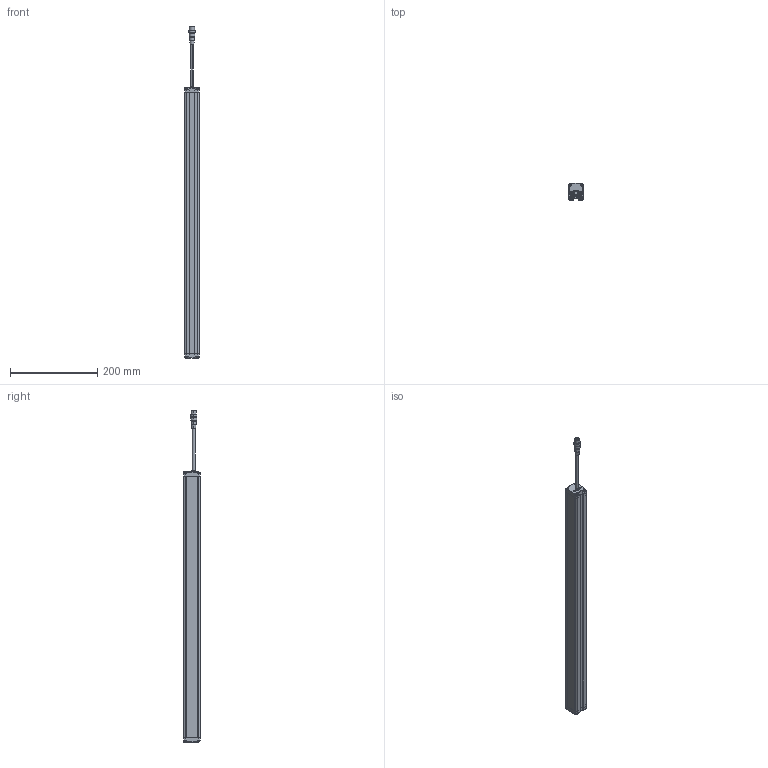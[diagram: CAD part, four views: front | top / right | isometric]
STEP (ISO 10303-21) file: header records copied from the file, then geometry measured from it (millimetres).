
FILE_DESCRIPTION((''),'2;1');
FILE_NAME('PRT0015','2026-03-31T10:39:47',('Administrator'),(''),'CREO PARAMETRIC BY PTC INC, 2016510','CREO PARAMETRIC BY PTC INC, 2016510','');
FILE_SCHEMA(('AUTOMOTIVE_DESIGN { 1 0 10303 214 1 1 1 1 }'));
Length unit declared in the file: millimetre
Products named in the file (1): PRT0015
Bounding box: 33 x 38 x 761.9 mm (x, y, z)
Surface area: 142917.8 mm2 (no closed solid volume)
Topology: 0 solids, 12 shells, 819 faces, 2194 edges, 1394 vertices
Faces by surface type: plane 388, cylinder 235, extrusion 88, sphere 40, torus 36, cone 28, bspline 4
Entity records: 32447 total; most frequent: CARTESIAN_POINT 6124, ORIENTED_EDGE 4284, DIRECTION 4048, EDGE_CURVE 2142, VERTEX_POINT 1394, AXIS2_PLACEMENT_3D 1377, VECTOR 1294, LINE 1206
